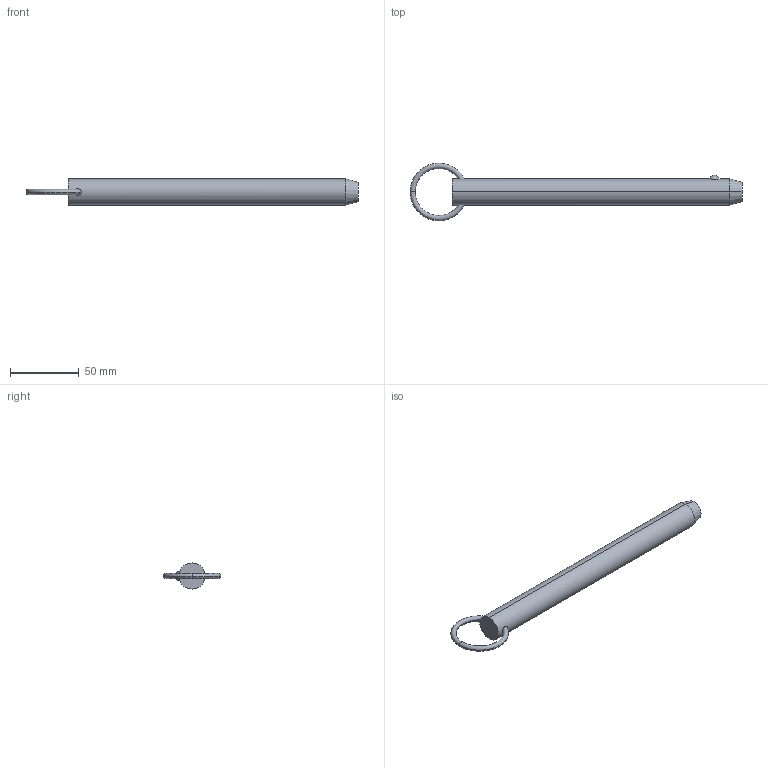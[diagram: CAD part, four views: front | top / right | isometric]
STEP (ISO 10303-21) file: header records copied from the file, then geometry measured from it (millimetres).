
FILE_DESCRIPTION (( 'STEP AP203' ), '1' );
FILE_NAME ('33010.W7570.step', '2024-11-01T10:44:52', ( '' ), ( '' ), 'SwSTEP 2.0', 'SolidWorks 2019', '' );
FILE_SCHEMA (( 'CONFIG_CONTROL_DESIGN' ));
Length unit declared in the file: millimetre
Products named in the file (3): Part1_33010.W7570; 33010.W7570; Part2_33010.W7570
Assembly tree (2 placements, depth 2):
  33010.W7570
    Part1_33010.W7570
    Part2_33010.W7570
Bounding box: 241.75 x 41.91 x 19.05 mm (x, y, z)
Volume: 60677.8 mm3; surface area: 14744.3 mm2
Topology: 2 solids, 2 shells, 16 faces, 31 edges, 18 vertices
Faces by surface type: torus 8, sphere 2, cone 2, cylinder 2, plane 2
Entity records: 893 total; most frequent: CARTESIAN_POINT 250, DIRECTION 88, ORIENTED_EDGE 62, AXIS2_PLACEMENT_3D 42, EDGE_CURVE 31, PERSON_AND_ORGANIZATION 26, CIRCLE 21, CALENDAR_DATE 19
